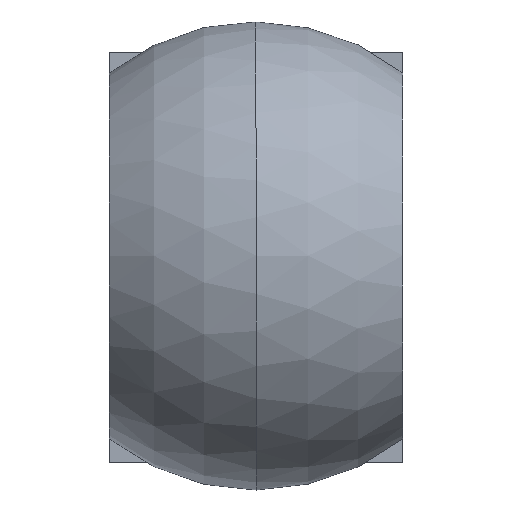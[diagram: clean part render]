
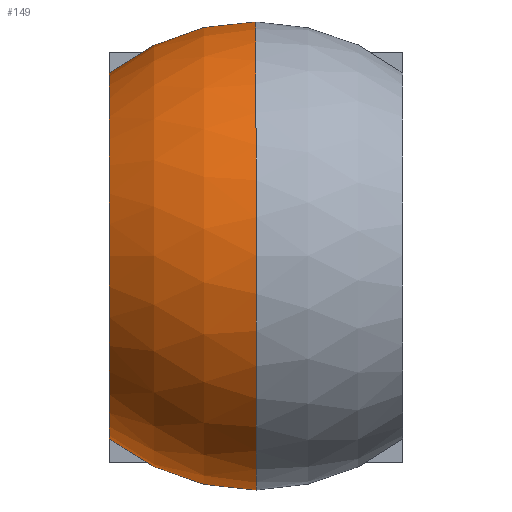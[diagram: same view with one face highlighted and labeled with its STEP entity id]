
A CAD part, top view. The second image highlights one B-rep face of the part: STEP entity #149.
In plain terms, the highlighted spherical face has radius 4 mm.
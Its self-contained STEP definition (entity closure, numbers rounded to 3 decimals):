
#10 = AXIS2_PLACEMENT_3D ( 'NONE', #461, #424, #413 ) ;
#20 = EDGE_CURVE ( 'NONE', #329, #346, #414, .T. ) ;
#36 = CARTESIAN_POINT ( 'NONE',  ( 0., 3., 13.354 ) ) ;
#37 = VERTEX_POINT ( 'NONE', #444 ) ;
#73 = AXIS2_PLACEMENT_3D ( 'NONE', #302, #352, #573 ) ;
#86 = ORIENTED_EDGE ( 'NONE', *, *, #225, .F. ) ;
#89 = CIRCLE ( 'NONE', #73, 3. ) ;
#123 = DIRECTION ( 'NONE',  ( 0., 0., -1. ) ) ;
#138 = CARTESIAN_POINT ( 'NONE',  ( 0., 0., 16. ) ) ;
#139 = DIRECTION ( 'NONE',  ( -1., 0., 0. ) ) ;
#149 = ADVANCED_FACE ( 'NONE', ( #500 ), #506, .T. ) ;
#155 = ORIENTED_EDGE ( 'NONE', *, *, #582, .F. ) ;
#206 = AXIS2_PLACEMENT_3D ( 'NONE', #138, #313, #123 ) ;
#211 = CARTESIAN_POINT ( 'NONE',  ( 0., 0., 20. ) ) ;
#225 = EDGE_CURVE ( 'NONE', #329, #486, #447, .T. ) ;
#226 = CARTESIAN_POINT ( 'NONE',  ( 0., 0., 16. ) ) ;
#232 = DIRECTION ( 'NONE',  ( 0., -1., 0. ) ) ;
#248 = ORIENTED_EDGE ( 'NONE', *, *, #675, .F. ) ;
#252 = CARTESIAN_POINT ( 'NONE',  ( 0., 0., 13.354 ) ) ;
#267 = AXIS2_PLACEMENT_3D ( 'NONE', #328, #560, #232 ) ;
#287 = DIRECTION ( 'NONE',  ( -1., 0., 0. ) ) ;
#302 = CARTESIAN_POINT ( 'NONE',  ( 0., 0., 13.354 ) ) ;
#311 = ORIENTED_EDGE ( 'NONE', *, *, #589, .F. ) ;
#313 = DIRECTION ( 'NONE',  ( 1., 0., 0. ) ) ;
#322 = CIRCLE ( 'NONE', #565, 3. ) ;
#328 = CARTESIAN_POINT ( 'NONE',  ( 0., 0., 16. ) ) ;
#329 = VERTEX_POINT ( 'NONE', #211 ) ;
#346 = VERTEX_POINT ( 'NONE', #36 ) ;
#352 = DIRECTION ( 'NONE',  ( 0., 0., -1. ) ) ;
#387 = CARTESIAN_POINT ( 'NONE',  ( 0., -3., 13.354 ) ) ;
#413 = DIRECTION ( 'NONE',  ( 0., 0., -1. ) ) ;
#414 = CIRCLE ( 'NONE', #438, 4. ) ;
#424 = DIRECTION ( 'NONE',  ( -1., 0., 0. ) ) ;
#426 = EDGE_LOOP ( 'NONE', ( #86, #622, #311, #248, #155 ) ) ;
#438 = AXIS2_PLACEMENT_3D ( 'NONE', #226, #287, #448 ) ;
#444 = CARTESIAN_POINT ( 'NONE',  ( -2.5, -1.658, 13.354 ) ) ;
#447 = CIRCLE ( 'NONE', #206, 4. ) ;
#448 = DIRECTION ( 'NONE',  ( 0., -1., 0. ) ) ;
#461 = CARTESIAN_POINT ( 'NONE',  ( -2.5, 0., 16. ) ) ;
#486 = VERTEX_POINT ( 'NONE', #387 ) ;
#500 = FACE_OUTER_BOUND ( 'NONE', #426, .T. ) ;
#506 = SPHERICAL_SURFACE ( 'NONE', #267, 4. ) ;
#553 = VERTEX_POINT ( 'NONE', #639 ) ;
#560 = DIRECTION ( 'NONE',  ( -1., 0., 0. ) ) ;
#565 = AXIS2_PLACEMENT_3D ( 'NONE', #252, #688, #139 ) ;
#573 = DIRECTION ( 'NONE',  ( -1., 0., 0. ) ) ;
#582 = EDGE_CURVE ( 'NONE', #486, #37, #89, .T. ) ;
#589 = EDGE_CURVE ( 'NONE', #553, #346, #322, .T. ) ;
#622 = ORIENTED_EDGE ( 'NONE', *, *, #20, .T. ) ;
#639 = CARTESIAN_POINT ( 'NONE',  ( -2.5, 1.658, 13.354 ) ) ;
#675 = EDGE_CURVE ( 'NONE', #37, #553, #679, .T. ) ;
#679 = CIRCLE ( 'NONE', #10, 3.122 ) ;
#688 = DIRECTION ( 'NONE',  ( 0., 0., -1. ) ) ;
